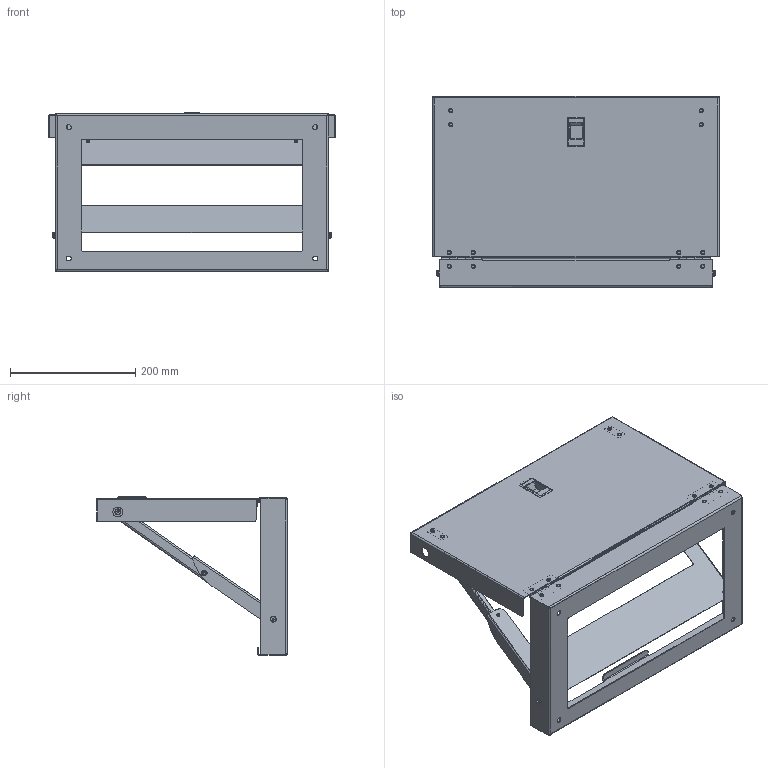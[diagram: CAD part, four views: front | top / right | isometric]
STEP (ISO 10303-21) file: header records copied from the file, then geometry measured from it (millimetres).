
FILE_DESCRIPTION((''),'2;1');
FILE_NAME('MODEL-100_OPEN_ASM','2019-05-02T13:57:04',('zachary.titus'),('SAGINAW CONTROL & ENGINEERING'),'CREO PARAMETRIC BY PTC INC, 2017260','CREO PARAMETRIC BY PTC INC, 2017260','');
FILE_SCHEMA(('AUTOMOTIVE_DESIGN { 1 0 10303 214 1 1 1 1 }'));
Length unit declared in the file: inch
Products named in the file (22): MODEL-100-BASE; 100062; MODEL-100-BASE-ASSY_ASM; 118216-BOX; 118216-PIN; 118216-DOOR; 118216_ASM; MODEL-100-SHLF; 118386; MODEL-100-SHELF-ASSY_ASM; 100897; 101779_LATCH; 101779_ASM; MODEL-100-BTM-SPT; 100022; MODEL-100-BOT-SPT-ASSY_ASM; 101024; 102407; MODEL-100-TOP-SPT; MODEL-100-TOP-SPT-ASSY_ASM; 118387; MODEL-100_OPEN_ASM
Assembly tree (60 placements, depth 3):
  MODEL-100_OPEN_ASM
    MODEL-100-BASE-ASSY_ASM
      MODEL-100-BASE
      100062  x4
    118216_ASM  x2
      118216-BOX
      118216-PIN
      118216-DOOR
    MODEL-100-SHELF-ASSY_ASM
      MODEL-100-SHLF
      118386  x2
      100062  x8
    100897  x12
    101779_ASM
      101779_LATCH
    MODEL-100-BOT-SPT-ASSY_ASM
      MODEL-100-BTM-SPT
      100022  x4
    101024  x6
    102407  x6
    MODEL-100-TOP-SPT-ASSY_ASM
      MODEL-100-TOP-SPT
      100022  x2
    118387
Bounding box: 457.2 x 304.8 x 253.74 mm (x, y, z)
Volume: 512646 mm3; surface area: 742872.1 mm2
Topology: 55 solids, 55 shells, 2210 faces, 5590 edges, 3521 vertices
Faces by surface type: plane 1242, cylinder 449, torus 243, cone 171, bspline 57, sphere 48
Entity records: 38674 total; most frequent: CARTESIAN_POINT 8846, DIRECTION 4094, ORIENTED_EDGE 3816, PRESENTATION_STYLE_ASSIGNMENT 1923, STYLED_ITEM 1923, CURVE_STYLE 1908, EDGE_CURVE 1908, AXIS2_PLACEMENT_3D 1530
